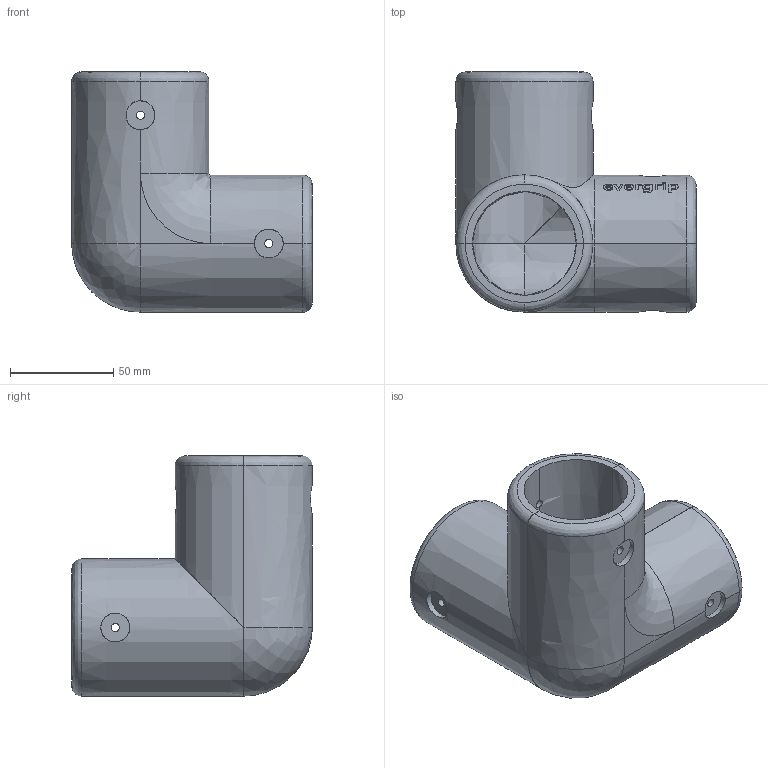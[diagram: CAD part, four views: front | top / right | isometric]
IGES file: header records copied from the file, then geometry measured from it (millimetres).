
Start section: SolidWorks IGES file using analytic representation for surfaces
Global section: file name: D:\Praca\Zlecenia prywatne\Konrad Izdebski Evergrip\KIE_018 Elementy z³¹czne\Dokumentacja\IGES\KIE_018.A17.IGS; native system: SolidWorks 2023; preprocessor: SolidWorks 2023; author: patry; date: 250225.101545; units: millimetre
Bounding box: 116.3 x 116.3 x 116.3 mm (x, y, z)
Surface area: 85141.7 mm2 (no closed solid volume)
Topology: 0 solids, 0 shells, 79 faces, 645 edges, 630 vertices
Faces by surface type: revolution 58, bspline 21
